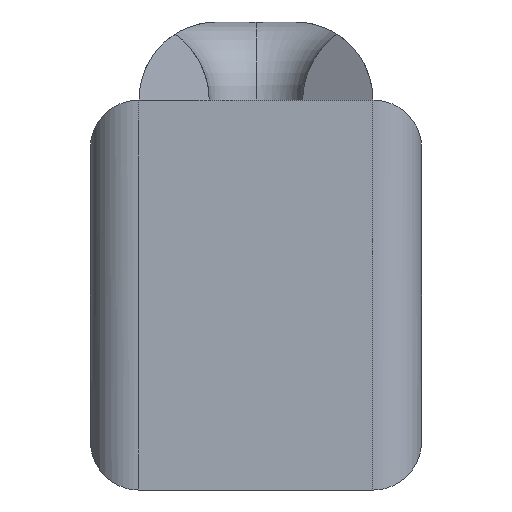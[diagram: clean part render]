
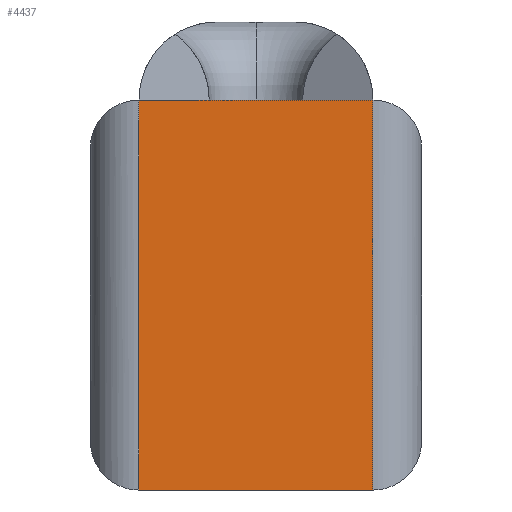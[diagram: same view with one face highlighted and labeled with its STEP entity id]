
A CAD part, left-side view. The second image highlights one B-rep face of the part: STEP entity #4437.
In plain terms, the highlighted planar face has unit normal (-1, 0, 0).
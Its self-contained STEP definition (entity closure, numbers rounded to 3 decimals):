
#69 = EDGE_CURVE ( 'NONE', #7327, #12314, #2055, .T. ) ;
#845 = DIRECTION ( 'NONE',  ( 0., 0., -1. ) ) ;
#1446 = VECTOR ( 'NONE', #845, 1000. ) ;
#1491 = VERTEX_POINT ( 'NONE', #5035 ) ;
#1991 = DIRECTION ( 'NONE',  ( 0., -1., 0. ) ) ;
#2055 = LINE ( 'NONE', #11438, #4081 ) ;
#2342 = AXIS2_PLACEMENT_3D ( 'NONE', #7956, #8086, #10976 ) ;
#2485 = DIRECTION ( 'NONE',  ( 0., 0., -1. ) ) ;
#2754 = LINE ( 'NONE', #2954, #12514 ) ;
#2954 = CARTESIAN_POINT ( 'NONE',  ( -17.5, 3., -5. ) ) ;
#3689 = EDGE_CURVE ( 'NONE', #12314, #1491, #8115, .T. ) ;
#3885 = ORIENTED_EDGE ( 'NONE', *, *, #4343, .T. ) ;
#4081 = VECTOR ( 'NONE', #5230, 1000. ) ;
#4182 = ORIENTED_EDGE ( 'NONE', *, *, #8277, .T. ) ;
#4343 = EDGE_CURVE ( 'NONE', #7327, #8922, #9757, .T. ) ;
#4437 = ADVANCED_FACE ( 'NONE', ( #11237 ), #4955, .F. ) ;
#4660 = ORIENTED_EDGE ( 'NONE', *, *, #3689, .F. ) ;
#4955 = PLANE ( 'NONE',  #2342 ) ;
#5035 = CARTESIAN_POINT ( 'NONE',  ( -17.5, -3., -5. ) ) ;
#5230 = DIRECTION ( 'NONE',  ( 0., -1., 0. ) ) ;
#7327 = VERTEX_POINT ( 'NONE', #7742 ) ;
#7742 = CARTESIAN_POINT ( 'NONE',  ( -17.5, 3., 5. ) ) ;
#7956 = CARTESIAN_POINT ( 'NONE',  ( -17.5, 3., 5. ) ) ;
#7981 = CARTESIAN_POINT ( 'NONE',  ( -17.5, -3., 5. ) ) ;
#8086 = DIRECTION ( 'NONE',  ( 1., 0., 0. ) ) ;
#8115 = LINE ( 'NONE', #7981, #1446 ) ;
#8277 = EDGE_CURVE ( 'NONE', #8922, #1491, #2754, .T. ) ;
#8447 = CARTESIAN_POINT ( 'NONE',  ( -17.5, 3., -5. ) ) ;
#8922 = VERTEX_POINT ( 'NONE', #8447 ) ;
#9709 = ORIENTED_EDGE ( 'NONE', *, *, #69, .F. ) ;
#9757 = LINE ( 'NONE', #10713, #11952 ) ;
#10023 = EDGE_LOOP ( 'NONE', ( #4182, #4660, #9709, #3885 ) ) ;
#10713 = CARTESIAN_POINT ( 'NONE',  ( -17.5, 3., 5. ) ) ;
#10833 = CARTESIAN_POINT ( 'NONE',  ( -17.5, -3., 5. ) ) ;
#10976 = DIRECTION ( 'NONE',  ( 0., 1., 0. ) ) ;
#11237 = FACE_OUTER_BOUND ( 'NONE', #10023, .T. ) ;
#11438 = CARTESIAN_POINT ( 'NONE',  ( -17.5, 3., 5. ) ) ;
#11952 = VECTOR ( 'NONE', #2485, 1000. ) ;
#12314 = VERTEX_POINT ( 'NONE', #10833 ) ;
#12514 = VECTOR ( 'NONE', #1991, 1000. ) ;
